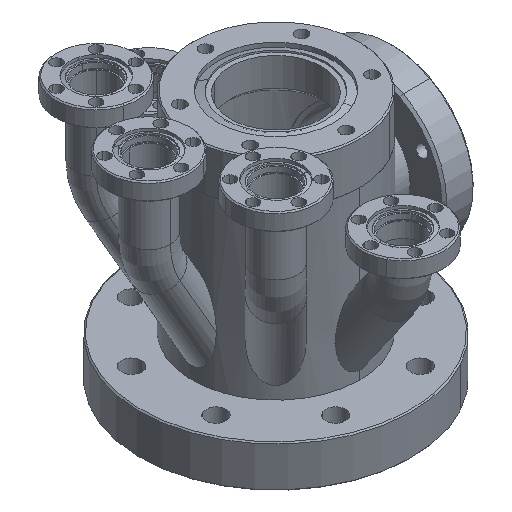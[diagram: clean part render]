
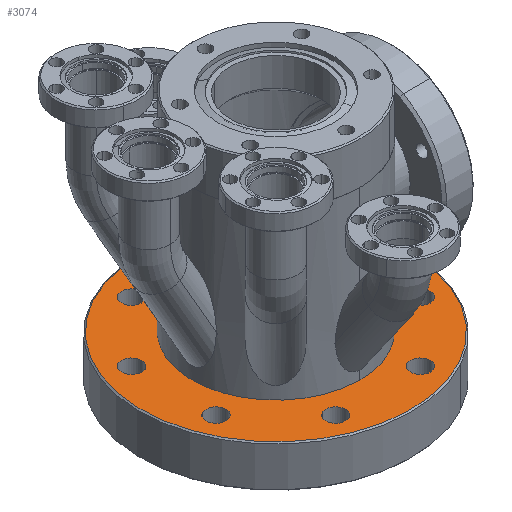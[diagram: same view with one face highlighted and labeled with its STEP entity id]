
A CAD part, isometric view. The second image highlights one B-rep face of the part: STEP entity #3074.
In plain terms, the highlighted planar face has unit normal (0, 0, 1) as drawn and (1, 0, 0) by its records, which use the part's own axes.
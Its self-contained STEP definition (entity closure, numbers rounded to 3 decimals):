
#2876=AXIS2_PLACEMENT_3D('Circle Axis2P3D',#2874,#2875,$) ;
#2893=AXIS2_PLACEMENT_3D('Circle Axis2P3D',#2891,#2892,$) ;
#2906=AXIS2_PLACEMENT_3D('Plane Axis2P3D',#2903,#2904,#2905) ;
#2910=AXIS2_PLACEMENT_3D('Circle Axis2P3D',#2908,#2909,$) ;
#2919=AXIS2_PLACEMENT_3D('Circle Axis2P3D',#2917,#2918,$) ;
#2928=AXIS2_PLACEMENT_3D('Circle Axis2P3D',#2926,#2927,$) ;
#2937=AXIS2_PLACEMENT_3D('Circle Axis2P3D',#2935,#2936,$) ;
#2950=AXIS2_PLACEMENT_3D('Circle Axis2P3D',#2948,#2949,$) ;
#2959=AXIS2_PLACEMENT_3D('Circle Axis2P3D',#2957,#2958,$) ;
#2968=AXIS2_PLACEMENT_3D('Circle Axis2P3D',#2966,#2967,$) ;
#2977=AXIS2_PLACEMENT_3D('Circle Axis2P3D',#2975,#2976,$) ;
#2986=AXIS2_PLACEMENT_3D('Circle Axis2P3D',#2984,#2985,$) ;
#2995=AXIS2_PLACEMENT_3D('Circle Axis2P3D',#2993,#2994,$) ;
#3004=AXIS2_PLACEMENT_3D('Circle Axis2P3D',#3002,#3003,$) ;
#3013=AXIS2_PLACEMENT_3D('Circle Axis2P3D',#3011,#3012,$) ;
#3022=AXIS2_PLACEMENT_3D('Circle Axis2P3D',#3020,#3021,$) ;
#3031=AXIS2_PLACEMENT_3D('Circle Axis2P3D',#3029,#3030,$) ;
#3040=AXIS2_PLACEMENT_3D('Circle Axis2P3D',#3038,#3039,$) ;
#3049=AXIS2_PLACEMENT_3D('Circle Axis2P3D',#3047,#3048,$) ;
#3058=AXIS2_PLACEMENT_3D('Circle Axis2P3D',#3056,#3057,$) ;
#3067=AXIS2_PLACEMENT_3D('Circle Axis2P3D',#3065,#3066,$) ;
#2855=CARTESIAN_POINT('Vertex',(17.5,30.715,16.78)) ;
#2871=CARTESIAN_POINT('Vertex',(17.5,-30.715,-16.78)) ;
#2874=CARTESIAN_POINT('Axis2P3D Location',(17.5,0.,0.)) ;
#2891=CARTESIAN_POINT('Axis2P3D Location',(17.5,0.,0.)) ;
#2903=CARTESIAN_POINT('Axis2P3D Location',(17.5,35.,0.)) ;
#2908=CARTESIAN_POINT('Axis2P3D Location',(17.5,0.,0.)) ;
#2912=CARTESIAN_POINT('Vertex',(17.5,-49.364,-26.968)) ;
#2914=CARTESIAN_POINT('Vertex',(17.5,49.364,26.968)) ;
#2917=CARTESIAN_POINT('Axis2P3D Location',(17.5,0.,0.)) ;
#2926=CARTESIAN_POINT('Axis2P3D Location',(17.5,-42.591,-17.642)) ;
#2930=CARTESIAN_POINT('Vertex',(17.5,-38.905,-15.628)) ;
#2932=CARTESIAN_POINT('Vertex',(17.5,-46.277,-19.655)) ;
#2935=CARTESIAN_POINT('Axis2P3D Location',(17.5,-42.591,-17.642)) ;
#2948=CARTESIAN_POINT('Axis2P3D Location',(17.5,-17.642,-42.591)) ;
#2952=CARTESIAN_POINT('Vertex',(17.5,-21.328,-44.604)) ;
#2954=CARTESIAN_POINT('Vertex',(17.5,-13.956,-40.577)) ;
#2957=CARTESIAN_POINT('Axis2P3D Location',(17.5,-17.642,-42.591)) ;
#2966=CARTESIAN_POINT('Axis2P3D Location',(17.5,17.642,-42.591)) ;
#2970=CARTESIAN_POINT('Vertex',(17.5,13.956,-44.604)) ;
#2972=CARTESIAN_POINT('Vertex',(17.5,21.328,-40.577)) ;
#2975=CARTESIAN_POINT('Axis2P3D Location',(17.5,17.642,-42.591)) ;
#2984=CARTESIAN_POINT('Axis2P3D Location',(17.5,42.591,-17.642)) ;
#2988=CARTESIAN_POINT('Vertex',(17.5,38.905,-19.655)) ;
#2990=CARTESIAN_POINT('Vertex',(17.5,46.277,-15.628)) ;
#2993=CARTESIAN_POINT('Axis2P3D Location',(17.5,42.591,-17.642)) ;
#3002=CARTESIAN_POINT('Axis2P3D Location',(17.5,42.591,17.642)) ;
#3006=CARTESIAN_POINT('Vertex',(17.5,38.905,15.628)) ;
#3008=CARTESIAN_POINT('Vertex',(17.5,46.277,19.655)) ;
#3011=CARTESIAN_POINT('Axis2P3D Location',(17.5,42.591,17.642)) ;
#3020=CARTESIAN_POINT('Axis2P3D Location',(17.5,17.642,42.591)) ;
#3024=CARTESIAN_POINT('Vertex',(17.5,13.956,40.577)) ;
#3026=CARTESIAN_POINT('Vertex',(17.5,21.328,44.604)) ;
#3029=CARTESIAN_POINT('Axis2P3D Location',(17.5,17.642,42.591)) ;
#3038=CARTESIAN_POINT('Axis2P3D Location',(17.5,-17.642,42.591)) ;
#3042=CARTESIAN_POINT('Vertex',(17.5,-21.328,40.577)) ;
#3044=CARTESIAN_POINT('Vertex',(17.5,-13.956,44.604)) ;
#3047=CARTESIAN_POINT('Axis2P3D Location',(17.5,-17.642,42.591)) ;
#3056=CARTESIAN_POINT('Axis2P3D Location',(17.5,-42.591,17.642)) ;
#3060=CARTESIAN_POINT('Vertex',(17.5,-46.277,15.628)) ;
#3062=CARTESIAN_POINT('Vertex',(17.5,-38.905,19.655)) ;
#3065=CARTESIAN_POINT('Axis2P3D Location',(17.5,-42.591,17.642)) ;
#2875=DIRECTION('Axis2P3D Direction',(1.,0.,0.)) ;
#2892=DIRECTION('Axis2P3D Direction',(1.,0.,0.)) ;
#2904=DIRECTION('Axis2P3D Direction',(1.,0.,0.)) ;
#2905=DIRECTION('Axis2P3D XDirection',(0.,1.,0.)) ;
#2909=DIRECTION('Axis2P3D Direction',(1.,0.,0.)) ;
#2918=DIRECTION('Axis2P3D Direction',(1.,0.,0.)) ;
#2927=DIRECTION('Axis2P3D Direction',(1.,0.,0.)) ;
#2936=DIRECTION('Axis2P3D Direction',(1.,0.,0.)) ;
#2949=DIRECTION('Axis2P3D Direction',(1.,0.,0.)) ;
#2958=DIRECTION('Axis2P3D Direction',(1.,0.,0.)) ;
#2967=DIRECTION('Axis2P3D Direction',(1.,0.,0.)) ;
#2976=DIRECTION('Axis2P3D Direction',(1.,0.,0.)) ;
#2985=DIRECTION('Axis2P3D Direction',(1.,0.,0.)) ;
#2994=DIRECTION('Axis2P3D Direction',(1.,0.,0.)) ;
#3003=DIRECTION('Axis2P3D Direction',(1.,0.,0.)) ;
#3012=DIRECTION('Axis2P3D Direction',(1.,0.,0.)) ;
#3021=DIRECTION('Axis2P3D Direction',(1.,0.,0.)) ;
#3030=DIRECTION('Axis2P3D Direction',(1.,0.,0.)) ;
#3039=DIRECTION('Axis2P3D Direction',(1.,0.,0.)) ;
#3048=DIRECTION('Axis2P3D Direction',(1.,0.,0.)) ;
#3057=DIRECTION('Axis2P3D Direction',(1.,0.,0.)) ;
#3066=DIRECTION('Axis2P3D Direction',(1.,0.,0.)) ;
#2923=ORIENTED_EDGE('',*,*,#2916,.T.) ;
#2924=ORIENTED_EDGE('',*,*,#2921,.T.) ;
#2941=ORIENTED_EDGE('',*,*,#2934,.F.) ;
#2942=ORIENTED_EDGE('',*,*,#2939,.F.) ;
#2945=ORIENTED_EDGE('',*,*,#2895,.F.) ;
#2946=ORIENTED_EDGE('',*,*,#2878,.F.) ;
#2963=ORIENTED_EDGE('',*,*,#2956,.F.) ;
#2964=ORIENTED_EDGE('',*,*,#2961,.F.) ;
#2981=ORIENTED_EDGE('',*,*,#2974,.F.) ;
#2982=ORIENTED_EDGE('',*,*,#2979,.F.) ;
#2999=ORIENTED_EDGE('',*,*,#2992,.F.) ;
#3000=ORIENTED_EDGE('',*,*,#2997,.F.) ;
#3017=ORIENTED_EDGE('',*,*,#3010,.F.) ;
#3018=ORIENTED_EDGE('',*,*,#3015,.F.) ;
#3035=ORIENTED_EDGE('',*,*,#3028,.F.) ;
#3036=ORIENTED_EDGE('',*,*,#3033,.F.) ;
#3053=ORIENTED_EDGE('',*,*,#3046,.F.) ;
#3054=ORIENTED_EDGE('',*,*,#3051,.F.) ;
#3071=ORIENTED_EDGE('',*,*,#3064,.F.) ;
#3072=ORIENTED_EDGE('',*,*,#3069,.F.) ;
#2943=FACE_BOUND('',#2940,.T.) ;
#2947=FACE_BOUND('',#2944,.T.) ;
#2965=FACE_BOUND('',#2962,.T.) ;
#2983=FACE_BOUND('',#2980,.T.) ;
#3001=FACE_BOUND('',#2998,.T.) ;
#3019=FACE_BOUND('',#3016,.T.) ;
#3037=FACE_BOUND('',#3034,.T.) ;
#3055=FACE_BOUND('',#3052,.T.) ;
#3073=FACE_BOUND('',#3070,.T.) ;
#3074=ADVANCED_FACE('Hauptk\X2\00F6\X0\rper',(#2925,#2943,#2947,#2965,#2983,#3001,#3019,#3037,#3055,#3073),#2907,.T.) ;
#2877=CIRCLE('generated circle',#2876,35.) ;
#2894=CIRCLE('generated circle',#2893,35.) ;
#2911=CIRCLE('generated circle',#2910,56.25) ;
#2920=CIRCLE('generated circle',#2919,56.25) ;
#2929=CIRCLE('generated circle',#2928,4.2) ;
#2938=CIRCLE('generated circle',#2937,4.2) ;
#2951=CIRCLE('generated circle',#2950,4.2) ;
#2960=CIRCLE('generated circle',#2959,4.2) ;
#2969=CIRCLE('generated circle',#2968,4.2) ;
#2978=CIRCLE('generated circle',#2977,4.2) ;
#2987=CIRCLE('generated circle',#2986,4.2) ;
#2996=CIRCLE('generated circle',#2995,4.2) ;
#3005=CIRCLE('generated circle',#3004,4.2) ;
#3014=CIRCLE('generated circle',#3013,4.2) ;
#3023=CIRCLE('generated circle',#3022,4.2) ;
#3032=CIRCLE('generated circle',#3031,4.2) ;
#3041=CIRCLE('generated circle',#3040,4.2) ;
#3050=CIRCLE('generated circle',#3049,4.2) ;
#3059=CIRCLE('generated circle',#3058,4.2) ;
#3068=CIRCLE('generated circle',#3067,4.2) ;
#2878=EDGE_CURVE('',#2872,#2856,#2877,.T.) ;
#2895=EDGE_CURVE('',#2856,#2872,#2894,.T.) ;
#2916=EDGE_CURVE('',#2913,#2915,#2911,.T.) ;
#2921=EDGE_CURVE('',#2915,#2913,#2920,.T.) ;
#2934=EDGE_CURVE('',#2931,#2933,#2929,.T.) ;
#2939=EDGE_CURVE('',#2933,#2931,#2938,.T.) ;
#2956=EDGE_CURVE('',#2953,#2955,#2951,.T.) ;
#2961=EDGE_CURVE('',#2955,#2953,#2960,.T.) ;
#2974=EDGE_CURVE('',#2971,#2973,#2969,.T.) ;
#2979=EDGE_CURVE('',#2973,#2971,#2978,.T.) ;
#2992=EDGE_CURVE('',#2989,#2991,#2987,.T.) ;
#2997=EDGE_CURVE('',#2991,#2989,#2996,.T.) ;
#3010=EDGE_CURVE('',#3007,#3009,#3005,.T.) ;
#3015=EDGE_CURVE('',#3009,#3007,#3014,.T.) ;
#3028=EDGE_CURVE('',#3025,#3027,#3023,.T.) ;
#3033=EDGE_CURVE('',#3027,#3025,#3032,.T.) ;
#3046=EDGE_CURVE('',#3043,#3045,#3041,.T.) ;
#3051=EDGE_CURVE('',#3045,#3043,#3050,.T.) ;
#3064=EDGE_CURVE('',#3061,#3063,#3059,.T.) ;
#3069=EDGE_CURVE('',#3063,#3061,#3068,.T.) ;
#2922=EDGE_LOOP('',(#2923,#2924)) ;
#2940=EDGE_LOOP('',(#2941,#2942)) ;
#2944=EDGE_LOOP('',(#2945,#2946)) ;
#2962=EDGE_LOOP('',(#2963,#2964)) ;
#2980=EDGE_LOOP('',(#2981,#2982)) ;
#2998=EDGE_LOOP('',(#2999,#3000)) ;
#3016=EDGE_LOOP('',(#3017,#3018)) ;
#3034=EDGE_LOOP('',(#3035,#3036)) ;
#3052=EDGE_LOOP('',(#3053,#3054)) ;
#3070=EDGE_LOOP('',(#3071,#3072)) ;
#2925=FACE_OUTER_BOUND('',#2922,.T.) ;
#2907=PLANE('',#2906) ;
#2856=VERTEX_POINT('',#2855) ;
#2872=VERTEX_POINT('',#2871) ;
#2913=VERTEX_POINT('',#2912) ;
#2915=VERTEX_POINT('',#2914) ;
#2931=VERTEX_POINT('',#2930) ;
#2933=VERTEX_POINT('',#2932) ;
#2953=VERTEX_POINT('',#2952) ;
#2955=VERTEX_POINT('',#2954) ;
#2971=VERTEX_POINT('',#2970) ;
#2973=VERTEX_POINT('',#2972) ;
#2989=VERTEX_POINT('',#2988) ;
#2991=VERTEX_POINT('',#2990) ;
#3007=VERTEX_POINT('',#3006) ;
#3009=VERTEX_POINT('',#3008) ;
#3025=VERTEX_POINT('',#3024) ;
#3027=VERTEX_POINT('',#3026) ;
#3043=VERTEX_POINT('',#3042) ;
#3045=VERTEX_POINT('',#3044) ;
#3061=VERTEX_POINT('',#3060) ;
#3063=VERTEX_POINT('',#3062) ;
